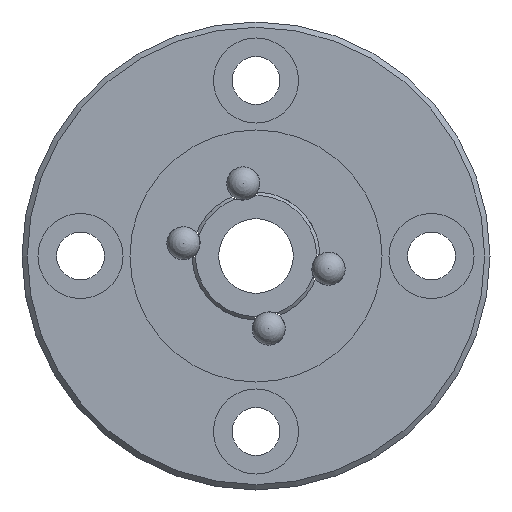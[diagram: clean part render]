
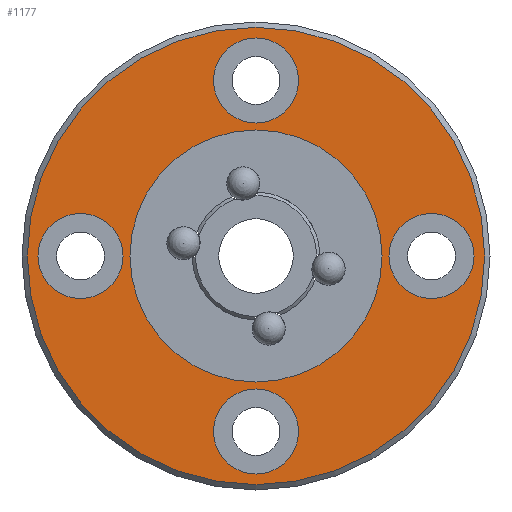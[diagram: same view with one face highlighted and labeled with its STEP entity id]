
A CAD part, left-side view. The second image highlights one B-rep face of the part: STEP entity #1177.
In plain terms, the highlighted planar face has unit normal (-1, 0, 0).
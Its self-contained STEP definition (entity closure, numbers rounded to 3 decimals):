
#53=PLANE('',#1324);
#325=ORIENTED_EDGE('',*,*,#538,.T.);
#326=ORIENTED_EDGE('',*,*,#539,.T.);
#327=ORIENTED_EDGE('',*,*,#540,.T.);
#328=ORIENTED_EDGE('',*,*,#541,.T.);
#329=ORIENTED_EDGE('',*,*,#542,.T.);
#330=ORIENTED_EDGE('',*,*,#536,.T.);
#536=EDGE_CURVE('',#659,#659,#754,.T.);
#538=EDGE_CURVE('',#661,#661,#756,.T.);
#539=EDGE_CURVE('',#662,#662,#757,.T.);
#540=EDGE_CURVE('',#663,#663,#758,.T.);
#541=EDGE_CURVE('',#664,#664,#759,.T.);
#542=EDGE_CURVE('',#665,#665,#760,.T.);
#659=VERTEX_POINT('',#2395);
#661=VERTEX_POINT('',#2400);
#662=VERTEX_POINT('',#2402);
#663=VERTEX_POINT('',#2404);
#664=VERTEX_POINT('',#2406);
#665=VERTEX_POINT('',#2408);
#754=CIRCLE('',#1322,21.5);
#756=CIRCLE('',#1325,11.85);
#757=CIRCLE('',#1326,4.);
#758=CIRCLE('',#1327,4.);
#759=CIRCLE('',#1328,4.);
#760=CIRCLE('',#1329,4.);
#862=EDGE_LOOP('',(#325));
#863=EDGE_LOOP('',(#326));
#864=EDGE_LOOP('',(#327));
#865=EDGE_LOOP('',(#328));
#866=EDGE_LOOP('',(#329));
#867=EDGE_LOOP('',(#330));
#1030=FACE_BOUND('',#862,.T.);
#1031=FACE_BOUND('',#863,.T.);
#1032=FACE_BOUND('',#864,.T.);
#1033=FACE_BOUND('',#865,.T.);
#1034=FACE_BOUND('',#866,.T.);
#1035=FACE_BOUND('',#867,.T.);
#1177=ADVANCED_FACE('',(#1030,#1031,#1032,#1033,#1034,#1035),#53,.F.);
#1322=AXIS2_PLACEMENT_3D('',#2394,#1581,#1582);
#1324=AXIS2_PLACEMENT_3D('',#2398,#1585,#1586);
#1325=AXIS2_PLACEMENT_3D('',#2399,#1587,#1588);
#1326=AXIS2_PLACEMENT_3D('',#2401,#1589,#1590);
#1327=AXIS2_PLACEMENT_3D('',#2403,#1591,#1592);
#1328=AXIS2_PLACEMENT_3D('',#2405,#1593,#1594);
#1329=AXIS2_PLACEMENT_3D('',#2407,#1595,#1596);
#1581=DIRECTION('',(-1.,0.,0.));
#1582=DIRECTION('',(0.,0.,1.));
#1585=DIRECTION('',(1.,0.,0.));
#1586=DIRECTION('',(0.,0.,-1.));
#1587=DIRECTION('',(1.,0.,0.));
#1588=DIRECTION('',(0.,0.,-1.));
#1589=DIRECTION('',(1.,0.,0.));
#1590=DIRECTION('',(0.,0.,1.));
#1591=DIRECTION('',(1.,0.,0.));
#1592=DIRECTION('',(0.,0.,1.));
#1593=DIRECTION('',(1.,0.,0.));
#1594=DIRECTION('',(0.,-1.,0.));
#1595=DIRECTION('',(1.,0.,0.));
#1596=DIRECTION('',(0.,-1.,0.));
#2394=CARTESIAN_POINT('',(-18.,0.,0.));
#2395=CARTESIAN_POINT('',(-18.,0.,21.5));
#2398=CARTESIAN_POINT('',(-18.,21.5,0.));
#2399=CARTESIAN_POINT('',(-18.,0.,0.));
#2400=CARTESIAN_POINT('',(-18.,0.,-11.85));
#2401=CARTESIAN_POINT('',(-18.,0.,16.5));
#2402=CARTESIAN_POINT('',(-18.,0.,20.5));
#2403=CARTESIAN_POINT('',(-18.,0.,-16.5));
#2404=CARTESIAN_POINT('',(-18.,0.,-12.5));
#2405=CARTESIAN_POINT('',(-18.,-16.5,0.));
#2406=CARTESIAN_POINT('',(-18.,-20.5,0.));
#2407=CARTESIAN_POINT('',(-18.,16.5,0.));
#2408=CARTESIAN_POINT('',(-18.,12.5,0.));
